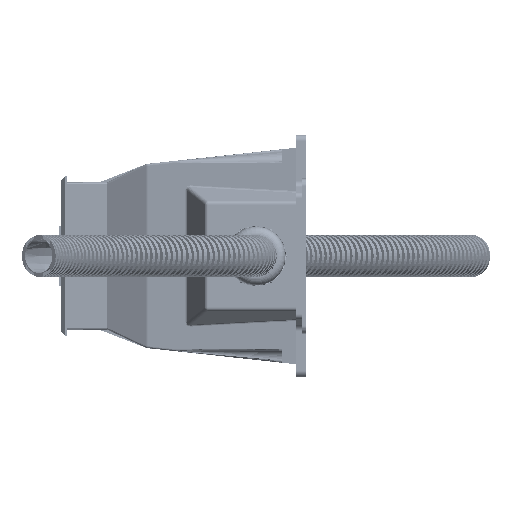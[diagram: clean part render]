
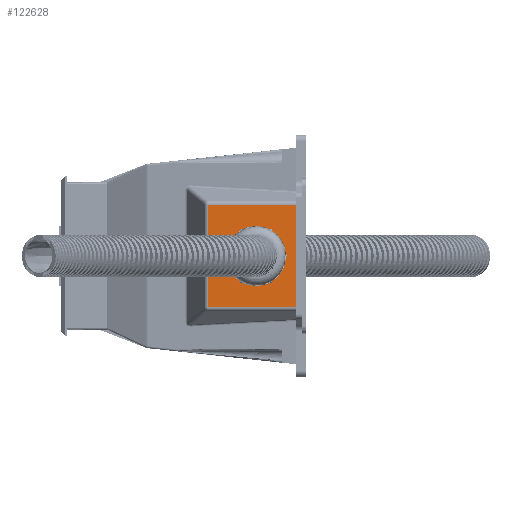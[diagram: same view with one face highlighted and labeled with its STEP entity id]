
A CAD part, left-side view. The second image highlights one B-rep face of the part: STEP entity #122628.
In plain terms, the highlighted planar face has unit normal (-1, 0, 0).
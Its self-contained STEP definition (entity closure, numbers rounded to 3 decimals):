
#109198=DIRECTION('',(0.,1.,0.));
#109199=VECTOR('',#109198,44.154);
#109200=CARTESIAN_POINT('',(-200.,-95.,25.898));
#109201=LINE('',#109200,#109199);
#109202=DIRECTION('',(0.,0.,-1.));
#109203=VECTOR('',#109202,51.796);
#109204=CARTESIAN_POINT('',(-200.,-95.,25.898));
#109205=LINE('',#109204,#109203);
#109206=DIRECTION('',(0.,-1.,0.));
#109207=VECTOR('',#109206,44.154);
#109208=CARTESIAN_POINT('',(-200.,-50.846,-25.898));
#109209=LINE('',#109208,#109207);
#109210=DIRECTION('',(0.,0.,-1.));
#109211=VECTOR('',#109210,51.796);
#109212=CARTESIAN_POINT('',(-200.,-50.846,25.898));
#109213=LINE('',#109212,#109211);
#109214=CARTESIAN_POINT('',(-200.,-75.,0.));
#109215=DIRECTION('',(-1.,0.,0.));
#109216=DIRECTION('',(0.,0.,1.));
#109217=AXIS2_PLACEMENT_3D('',#109214,#109215,#109216);
#109219=CARTESIAN_POINT('',(-200.,-75.,0.));
#109220=DIRECTION('',(-1.,0.,0.));
#109221=DIRECTION('',(0.,0.,-1.));
#109222=AXIS2_PLACEMENT_3D('',#109219,#109220,#109221);
#116501=CARTESIAN_POINT('',(-200.,-95.,25.898));
#116502=CARTESIAN_POINT('',(-200.,-50.846,25.898));
#116503=VERTEX_POINT('',#116501);
#116504=VERTEX_POINT('',#116502);
#116513=CARTESIAN_POINT('',(-200.,-50.846,-25.898));
#116514=VERTEX_POINT('',#116513);
#116519=CARTESIAN_POINT('',(-200.,-95.,-25.898));
#116520=VERTEX_POINT('',#116519);
#118199=CARTESIAN_POINT('',(-200.,-75.,10.5));
#118200=CARTESIAN_POINT('',(-200.,-75.,-10.5));
#118201=VERTEX_POINT('',#118199);
#118202=VERTEX_POINT('',#118200);
#122609=CARTESIAN_POINT('',(-200.,0.,0.));
#122610=DIRECTION('',(1.,0.,0.));
#122611=DIRECTION('',(0.,0.,-1.));
#122612=AXIS2_PLACEMENT_3D('',#122609,#122610,#122611);
#122613=PLANE('',#122612);
#122614=ORIENTED_EDGE('',*,*,#122600,.F.);
#122615=ORIENTED_EDGE('',*,*,#122557,.T.);
#122617=ORIENTED_EDGE('',*,*,#122616,.F.);
#122619=ORIENTED_EDGE('',*,*,#122618,.F.);
#122620=EDGE_LOOP('',(#122614,#122615,#122617,#122619));
#122621=FACE_OUTER_BOUND('',#122620,.F.);
#122623=ORIENTED_EDGE('',*,*,#122622,.T.);
#122625=ORIENTED_EDGE('',*,*,#122624,.T.);
#122626=EDGE_LOOP('',(#122623,#122625));
#122627=FACE_BOUND('',#122626,.F.);
#122628=ADVANCED_FACE('',(#122621,#122627),#122613,.F.);
#109218=CIRCLE('',#109217,10.5);
#109223=CIRCLE('',#109222,10.5);
#122557=EDGE_CURVE('',#116503,#116520,#109205,.T.);
#122600=EDGE_CURVE('',#116503,#116504,#109201,.T.);
#122616=EDGE_CURVE('',#116514,#116520,#109209,.T.);
#122618=EDGE_CURVE('',#116504,#116514,#109213,.T.);
#122622=EDGE_CURVE('',#118201,#118202,#109218,.T.);
#122624=EDGE_CURVE('',#118202,#118201,#109223,.T.);
